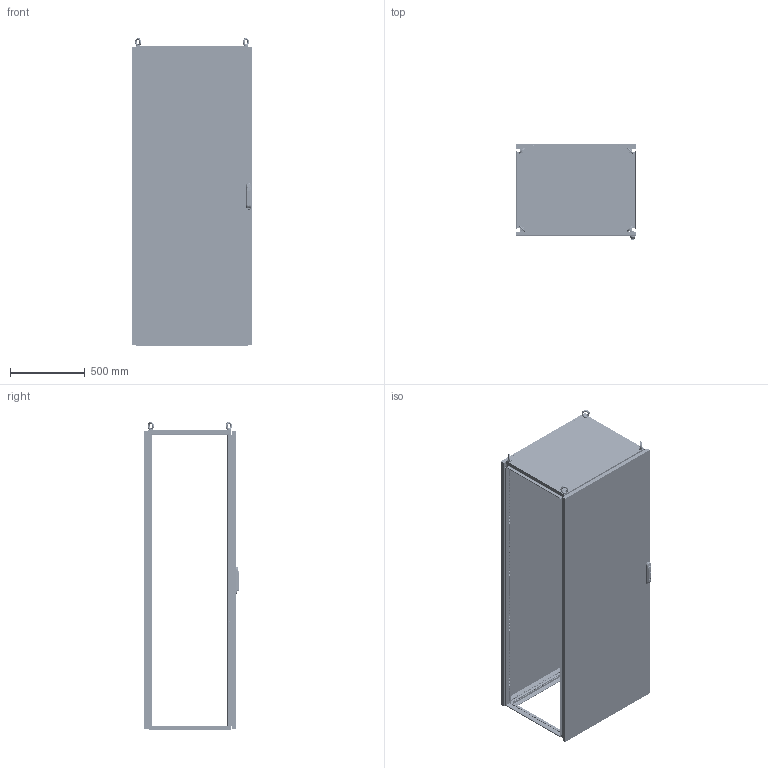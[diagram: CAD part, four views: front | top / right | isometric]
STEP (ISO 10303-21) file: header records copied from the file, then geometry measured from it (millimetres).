
FILE_DESCRIPTION(/* description */ ('Unknown'),/* implementation_level */ '2;1');
FILE_NAME(/* name */ 'MCA08020060',/* time_stamp */ '2025-03-07T09:09:10+01:00',/* author */ ('Unknown'),/* organization */ ('Unknown'),/* preprocessor_version */ 'ST-DEVELOPER v19.4',/* originating_system */ 'Solid Edge',/* authorisation */ 'Unknown');
FILE_SCHEMA (('CONFIG_CONTROL_DESIGN'));
Products named in the file (46): MCA08020060; F0000001.24; AE00198.03; M000X000.52; M0000000.14; AE00500.10; M000X000.53; M0000000.43; M0000000.39; M0000000.06; AE00219.03; AE00715.01; M000X000.15; M0000000.30; F000X001.85; F000X001.86; F0000001.39; F0000000.07; AE00100.03_oa_0; AE00100.03_oa_1; AE00100.03_oa_2; AE00100.03_oa_3; M0000000.37; AE00701.03; F0000000.13; F000X000.07; F000X000.08; F000X000.09; F0000000.09; F000X000.10; F0000002.22; F0000002.17; AE01400.01; AE00413.05; AE00417.01; F0000000.12; AE00222.15; AE00316.01; AE00992.10_oa_4; AE00992.31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
Assembly tree (190 placements, depth 5):
  MCA08020060
    F0000001.24  x4
    AE00198.03  x16
    M000X000.52
      M0000000.14  x4
      AE00500.10  x48
      M000X000.53  x2
        M0000000.43
        M0000000.39
        M0000000.06
    AE00219.03  x8
    AE00715.01  x4
    M000X000.15
      M0000000.30
    F000X001.85
      F000X001.86
        F0000001.39
      F0000000.07  x2
      AE00100.03_oa_0
      AE00100.03_oa_1
      AE00100.03_oa_2
      AE00100.03_oa_3
    M0000000.37  x8
    AE00701.03  x4
    F0000000.13  x4
    F000X000.07
      F000X000.08
        F000X000.09
          F0000000.09
        F000X000.10
          F0000002.22  x2
          F0000002.17  x2
          AE01400.01  x4
        AE00413.05  x4
        AE00417.01  x2
      F0000000.12  x8
      AE00222.15  x8
      AE00316.01  x8
      AE00992.10_oa_4
      AE00992.31
      AE00315.01  x4
      AE00992.17   x2
      AE00992.18  x4
      AE00992.16
      AE00636.02  x8
    F0000000.08  x4
Bounding box: 800 x 638.2 x 2056.99 mm (x, y, z)
Volume: 16180944.5 mm3; surface area: 14608938.1 mm2
Topology: 199 solids, 199 shells, 10436 faces, 29916 edges, 20027 vertices
Faces by surface type: plane 7489, cylinder 2341, cone 534, torus 42, sphere 16, bspline 14
Full cylindrical faces by diameter (mm): 2 x4, 3 x1, 3.242 x2, 4 x12, 4.134 x5, 4.25 x198, 4.5 x992, 4.917 x65, 4.918 x8, 5 x6, 6 x58, 6.1 x20, 6.2 x8, 6.5 x20, 7.5 x2, 8.3 x8, 8.5 x2, 9 x48, 10.106 x8, 10.5 x16, 11.8 x8, 12 x16, 13 x4, 14 x1, 16 x1, 17 x1, 23 x2, 30 x4
Entity records: 81774 total; most frequent: CARTESIAN_POINT 14297, ORIENTED_EDGE 12676, DIRECTION 12610, EDGE_CURVE 6338, LINE 4992, VECTOR 4992, VERTEX_POINT 4500, FACE_BOUND 4168
